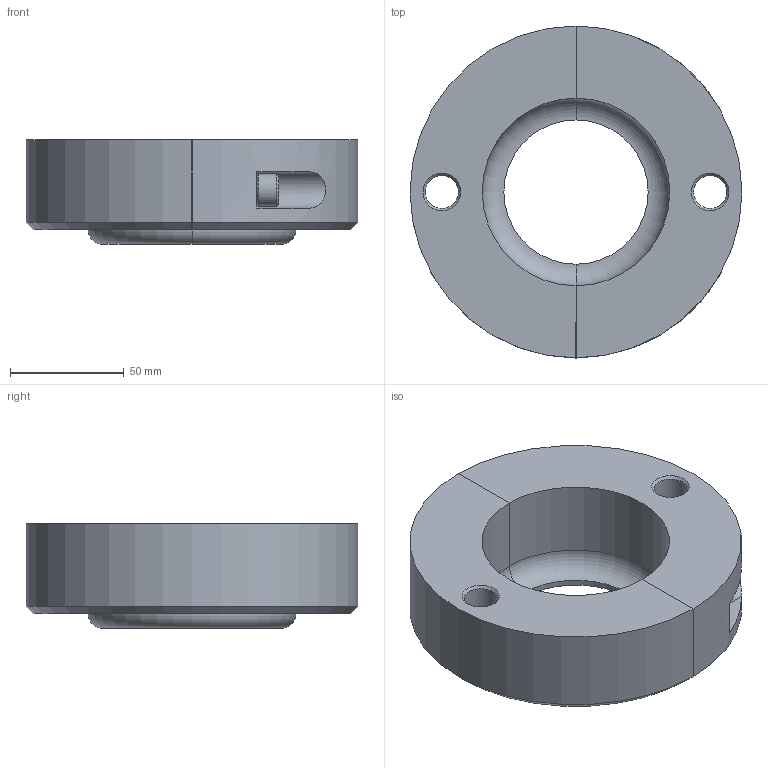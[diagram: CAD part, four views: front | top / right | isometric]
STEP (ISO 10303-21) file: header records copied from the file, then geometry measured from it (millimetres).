
FILE_DESCRIPTION(/* description */ (''),/* implementation_level */ '2;1');
FILE_NAME(/* name */ 'C:/Users/donbe/OneDrive/Documents/Cars/GMC Motorhome/tom-warner-bearing-puller/TomWarnerBearingPuller v13.step',/* time_stamp */ '2021-08-12T17:58:50-04:00',/* author */ (''),/* organization */ (''),/* preprocessor_version */ 'ST-DEVELOPER v18.1',/* originating_system */ 'Autodesk Translation Framework v10.9.0.1377',/* authorisation */ '');
FILE_SCHEMA (('AUTOMOTIVE_DESIGN { 1 0 10303 214 3 1 1 }'));
Length unit declared in the file: inch
Products named in the file (4): TomWarnerBearingPuller; 91251A630; ThreadedHalf; UnthreadedHalf
Assembly tree (3 placements, depth 2):
  TomWarnerBearingPuller
    91251A630
    ThreadedHalf
    UnthreadedHalf
Bounding box: 146.05 x 146.05 x 46.04 mm (x, y, z)
Volume: 436963.6 mm3; surface area: 71847.5 mm2
Topology: 3 solids, 3 shells, 105 faces, 267 edges, 172 vertices
Faces by surface type: cylinder 56, plane 26, cone 17, torus 4, bspline 2
Full cylindrical faces by diameter (mm): 7.463 x18, 7.976 x2, 9.525 x20, 9.922 x2, 14.287 x1, 14.516 x2
Entity records: 7053 total; most frequent: CARTESIAN_POINT 4539, ORIENTED_EDGE 530, DIRECTION 455, EDGE_CURVE 265, AXIS2_PLACEMENT_3D 175, VERTEX_POINT 172, EDGE_LOOP 119, FACE_OUTER_BOUND 105
